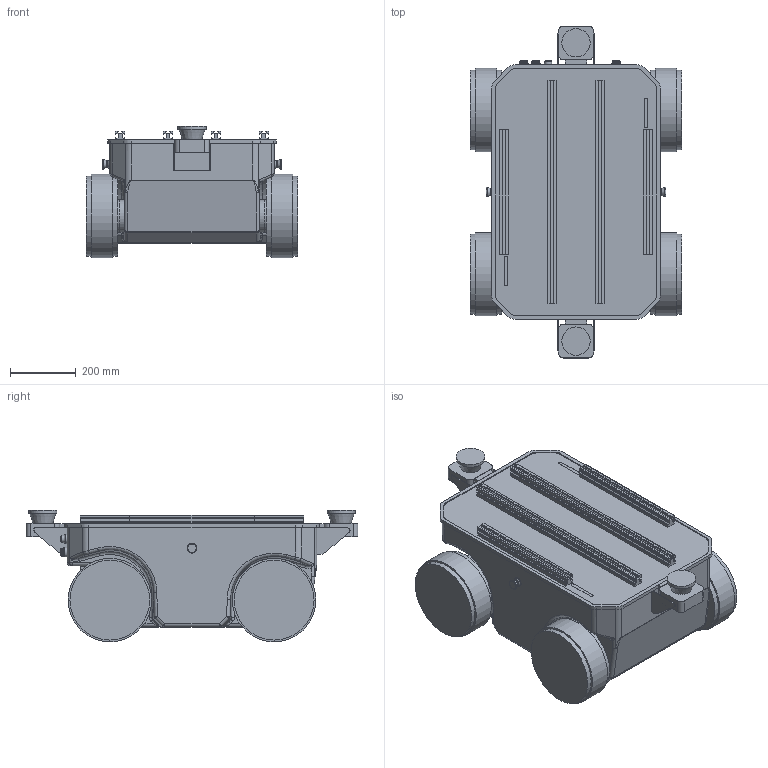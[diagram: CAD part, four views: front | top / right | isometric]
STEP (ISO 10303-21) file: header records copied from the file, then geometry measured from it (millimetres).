
FILE_DESCRIPTION(/* description */ (''),/* implementation_level */ '2;1');
FILE_NAME(/* name */ 'MPO-500 V1.3.0 Simplified 2025-11-28.stp',/* time_stamp */ '2025-11-28T15:00:08+01:00',/* author */ ('FLV'),/* organization */ (''),/* preprocessor_version */ 'ST-DEVELOPER v20',/* originating_system */ 'Autodesk Inventor 2025',/* authorisation */ '');
FILE_SCHEMA (('AUTOMOTIVE_DESIGN { 1 0 10303 214 3 1 1 }'));
Length unit declared in the file: millimetre
Products named in the file (4): MPO-500 V1.3.0 Simplified; MPO-500 V1.3.0 Simplified Body; MPO-500 V1.3.0 Simplified Wheel; MPO-500 V1.3.0 Simplified nanoScan3_Full
Assembly tree (7 placements, depth 2):
  MPO-500 V1.3.0 Simplified
    MPO-500 V1.3.0 Simplified Body
    MPO-500 V1.3.0 Simplified Wheel  x4
    MPO-500 V1.3.0 Simplified nanoScan3_Full  x2
Bounding box: 643 x 1010.5 x 400.7 mm (x, y, z)
Volume: 118733799.7 mm3; surface area: 2929769.9 mm2
Topology: 9 solids, 9 shells, 598 faces, 1472 edges, 915 vertices
Faces by surface type: plane 322, cylinder 178, bspline 42, torus 22, sphere 20, cone 14
Full cylindrical faces by diameter (mm): 19.716 x2, 22 x1, 24.036 x3, 27.5 x3, 28 x2, 29 x3, 29.5 x3, 86 x2, 100 x8, 243 x8, 254 x4
Entity records: 19276 total; most frequent: CARTESIAN_POINT 5641, DIRECTION 2807, ORIENTED_EDGE 2748, EDGE_CURVE 1374, AXIS2_PLACEMENT_3D 942, LINE 923, VECTOR 923, VERTEX_POINT 863
